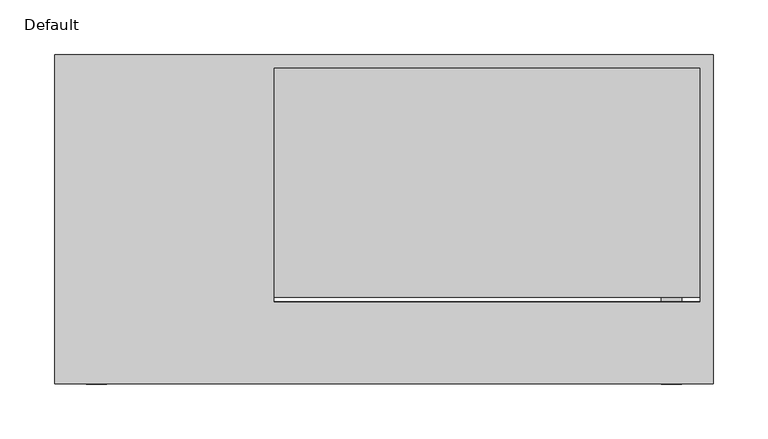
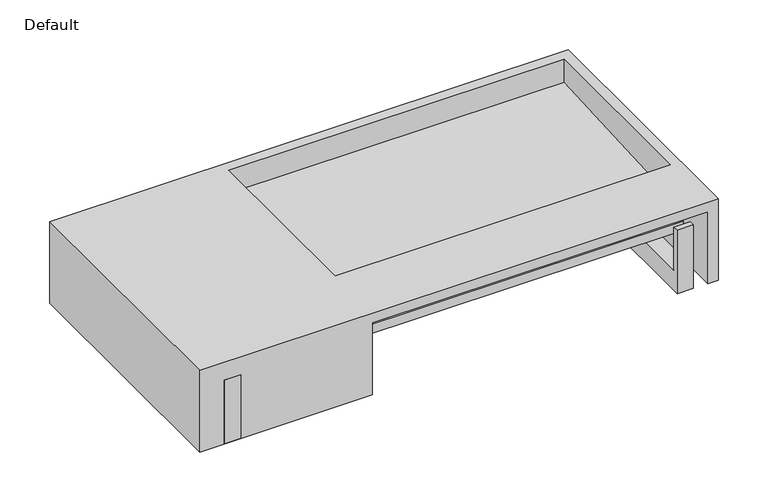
"""IFC4 building model written with IfcOpenShell, lengths in millimetres: proxy geometry, TSL_UK - TSLMONODDA - Monolith Basin - Nest - Shared : Default."""

from ifc_helpers import new_model, si_unit, frame, origin, place, context, project, spatial, polyline, outline, extrude, faceted_brep, source, transform, mapped, element, save


def default_dbb53d0f(model_context):
    return source(origin(), model_context, "Body", "SolidModel", [
        extrude(outline(polyline([(0.0, 620.0), (0.0, 697.775), (6.35, 697.775), (6.35, 645.4), (293.65, 645.4), (293.65, 620.0), (0.0, 620.0)])), frame((252.475, 0.0, 0.0), z_axis=(1.0, 0.0, 0.0), x_axis=(0.0, 1.0, 0.0)), (0.0, 0.0, 1.0), 19.05),
        extrude(outline(polyline([(0.0, 620.0), (0.0, 697.775), (6.35, 697.775), (6.35, 645.4), (293.65, 645.4), (293.65, 620.0), (0.0, 620.0)])), frame((-271.525, 0.0, 0.0), z_axis=(1.0, 0.0, 0.0), x_axis=(0.0, 1.0, 0.0)), (0.0, 0.0, 1.0), 19.05),
        extrude(outline(polyline([(106.7698863, 655.70625), (79.1670072, 655.70625), (79.1670072, 668.4150633), (106.7698863, 669.8617221), (106.7698863, 655.70625)])), frame((-100.0, 0.0, 0.0), z_axis=(1.0, 0.0, 0.0), x_axis=(0.0, 1.0, 0.0)), (0.0, 0.0, 1.0), 388.0),
        extrude(outline(polyline([(48.7879251, 666.8229044), (75.0, 668.1966716), (75.0, 655.70625), (48.7879251, 655.70625), (48.7879251, 666.8229044)])), frame((-100.0, 0.0, 0.0), z_axis=(1.0, 0.0, 0.0), x_axis=(0.0, 1.0, 0.0)), (0.0, 0.0, 1.0), 388.0),
        faceted_brep([(300.0, 0.0, 720.0), (300.0, 300.0, 720.0), (-300.0, 300.0, 720.0), (-300.0, 0.0, 720.0), (288.0, 75.0, 720.0), (-100.0, 75.0, 720.0), (-100.0, 288.0, 720.0), (288.0, 288.0, 720.0), (-100.0, 0.0, 708.0), (-100.0, 63.0, 708.0), (288.0, 63.0, 708.0), (288.0, 0.0, 708.0), (288.0, 0.0, 620.0), (288.0, 294.0, 620.0), (-100.0, 294.0, 620.0), (-100.0, 0.0, 620.0), (-300.0, 0.0, 620.0), (-300.0, 300.0, 620.0), (300.0, 300.0, 620.0), (300.0, 0.0, 620.0), (288.0, 63.0, 667.5677551), (288.0, 75.0, 668.1966716), (288.0, 288.0, 692.0773683), (288.0, 79.1670072, 681.1684371), (288.0, 79.1670072, 668.4150633), (288.0, 288.0, 679.3599395), (288.0, 288.0, 660.188042), (288.0, 294.0, 660.188042), (288.0, 294.0, 656.1396093), (288.0, 288.0, 656.1396093), (288.0, 288.0, 650.0910088), (288.0, 294.0, 650.0910088), (-100.0, 288.0, 692.0773683), (-100.0, 288.0, 679.3599395), (-100.0, 288.0, 660.188042), (-100.0, 288.0, 656.1396093), (-100.0, 288.0, 650.0910088), (-100.0, 294.0, 650.0910088), (-100.0, 294.0, 656.1396093), (-100.0, 294.0, 660.188042), (-100.0, 79.1670072, 668.4150633), (-100.0, 79.1670072, 681.1684371), (-100.0, 75.0, 668.1966716), (-100.0, 63.0, 667.5677551)], [[[0, 1, 2, 3], [4, 5, 6, 7]], [[8, 9, 10, 11]], [[12, 13, 14, 15, 16, 17, 18, 19]], [[15, 8, 11, 12, 19, 0, 3, 16]], [[3, 2, 17, 16]], [[2, 1, 18, 17]], [[1, 0, 19, 18]], [[11, 10, 20, 21, 4, 7, 22, 23, 24, 25, 26, 27, 28, 29, 30, 31, 13, 12]], [[7, 6, 32, 22]], [[26, 25, 33, 34]], [[29, 35, 36, 30]], [[15, 14, 37, 36, 35, 38, 39, 34, 33, 40, 41, 32, 6, 5, 42, 43, 9, 8]], [[20, 10, 9, 43]], [[5, 4, 21, 42]], [[24, 23, 41, 40]], [[43, 42, 21, 20]], [[40, 33, 25, 24]], [[23, 22, 32, 41]], [[26, 34, 39, 27]], [[27, 39, 38, 28]], [[28, 38, 35, 29]], [[30, 36, 37, 31]], [[31, 37, 14, 13]]]),
        extrude(outline(polyline([(288.0, 656.1396093), (288.0, 645.4681062), (286.4125, 645.4681062), (286.4125, 658.1638256), (294.0, 658.1638256), (294.0, 656.1396093), (288.0, 656.1396093)])), frame((-100.0, 0.0, 0.0), z_axis=(1.0, 0.0, 0.0), x_axis=(0.0, 1.0, 0.0)), (0.0, 0.0, 1.0), 388.0),
    ])


if __name__ == "__main__":
    model = new_model("IFC4")
    model_context = context("Model", 3, world=origin())
    ifc_project = project(units=[si_unit("LENGTHUNIT", "METRE", prefix="MILLI")], contexts=[model_context])
    site = spatial("IfcSite", under=ifc_project)
    building = spatial("IfcBuilding", under=site)
    placement = place(None, origin())
    default_shape = default_dbb53d0f(model_context)
    element("IfcBuildingElementProxy", 1, Name="TSL_UK - TSLMONODDA - Monolith Basin - Nest - Shared : Default", ObjectType="TSL_UK - TSLMONODDA - Monolith Basin - Nest - Shared : Default", at=placement, inside=building, context=model_context, shape_type="MappedRepresentation", body=[
        mapped(default_shape, transform((0.0, 0.0, 0.0), x_axis=(1.0, 0.0, 0.0), y_axis=(0.0, 1.0, 0.0), z_axis=(0.0, 0.0, 1.0))),
    ])
    save(model, "model.ifc")
